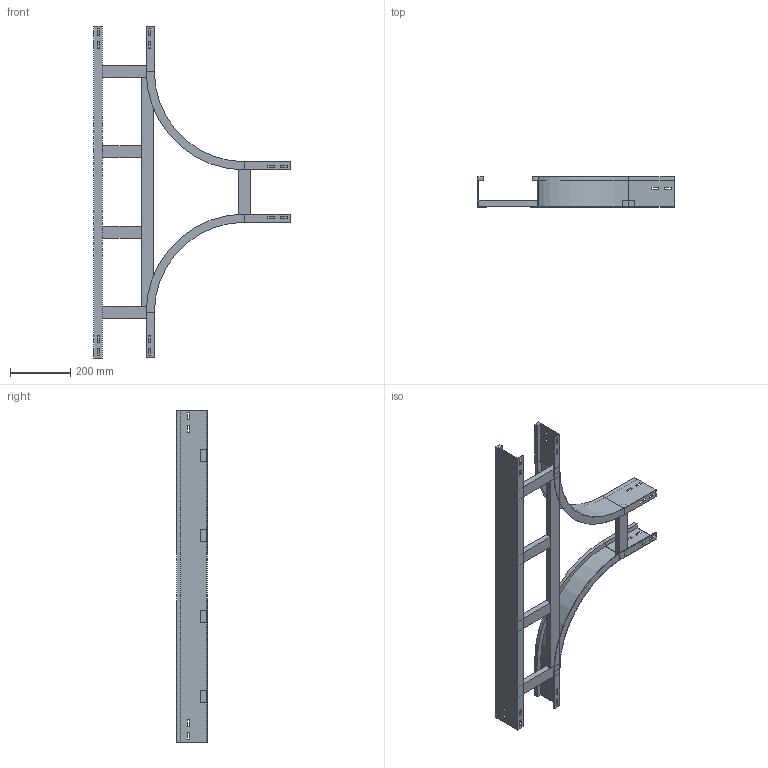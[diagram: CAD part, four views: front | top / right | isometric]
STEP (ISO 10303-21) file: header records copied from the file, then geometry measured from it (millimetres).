
FILE_DESCRIPTION (( 'STEP AP214' ), '1' );
FILE_NAME ('A2_15B3D200.step', '2025-02-21T15:49:29', ( '' ), ( '' ), 'SwSTEP 2.0', 'SolidWorks 2023', '' );
FILE_SCHEMA (( 'AUTOMOTIVE_DESIGN' ));
Length unit declared in the file: millimetre
Products named in the file (6): TRAVERSINO_INTERMEDIO_R300+200; TRAVERSINO_200; A2_TRAVERSINO_LONG._R300+200; A2_15B3D200; A2_LONGH.RETT_H100_R300+200; A2_LONGH.INTERNO 90°_H100_R300
Assembly tree (9 placements, depth 2):
  A2_15B3D200
    A2_LONGH.INTERNO 90°_H100_R300  x2
    A2_LONGH.RETT_H100_R300+200
    TRAVERSINO_200  x3
    A2_TRAVERSINO_LONG._R300+200
    TRAVERSINO_INTERMEDIO_R300+200  x2
Bounding box: 650 x 100 x 1100 mm (x, y, z)
Volume: 2512906 mm3; surface area: 968875.3 mm2
Topology: 9 solids, 9 shells, 194 faces, 496 edges, 320 vertices
Faces by surface type: plane 186, cylinder 8
Entity records: 3815 total; most frequent: CARTESIAN_POINT 638, ORIENTED_EDGE 616, DIRECTION 576, EDGE_CURVE 308, VECTOR 300, LINE 300, VERTEX_POINT 200, EDGE_LOOP 150
